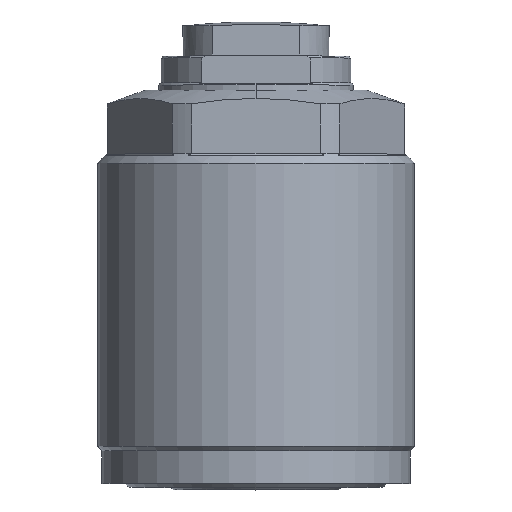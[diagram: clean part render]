
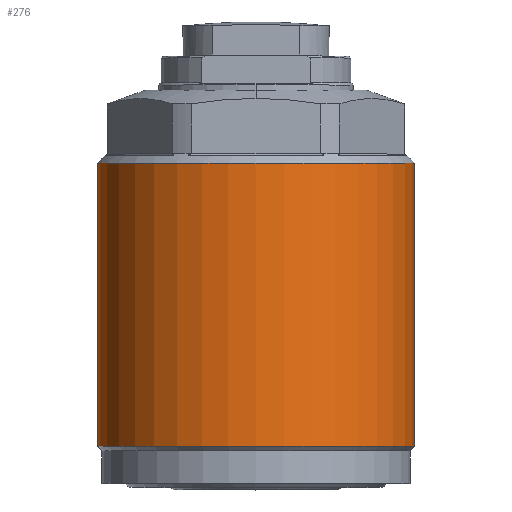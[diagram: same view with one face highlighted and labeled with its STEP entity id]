
A CAD part, top view. The second image highlights one B-rep face of the part: STEP entity #276.
In plain terms, the highlighted cylindrical face has radius 32.5 mm (diameter 65 mm), a partial arc.
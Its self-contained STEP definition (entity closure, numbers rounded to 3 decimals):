
#205=CYLINDRICAL_SURFACE('',#1664,32.5);
#276=ADVANCED_FACE('',(#381),#205,.T.);
#381=FACE_OUTER_BOUND('',#473,.T.);
#473=EDGE_LOOP('',(#892,#893,#894,#895));
#562=LINE('',#2502,#637);
#563=LINE('',#2506,#638);
#637=VECTOR('',#2022,1.);
#638=VECTOR('',#2025,1.);
#892=ORIENTED_EDGE('',*,*,#1355,.T.);
#893=ORIENTED_EDGE('',*,*,#1357,.T.);
#894=ORIENTED_EDGE('',*,*,#1358,.T.);
#895=ORIENTED_EDGE('',*,*,#1359,.F.);
#1181=VERTEX_POINT('',#2497);
#1182=VERTEX_POINT('',#2499);
#1183=VERTEX_POINT('',#2503);
#1184=VERTEX_POINT('',#2505);
#1355=EDGE_CURVE('',#1182,#1181,#1512,.T.);
#1357=EDGE_CURVE('',#1181,#1183,#562,.T.);
#1358=EDGE_CURVE('',#1183,#1184,#1513,.T.);
#1359=EDGE_CURVE('',#1182,#1184,#563,.T.);
#1512=CIRCLE('',#1661,32.5);
#1513=CIRCLE('',#1663,32.5);
#1661=AXIS2_PLACEMENT_3D('',#2498,#2017,#2018);
#1663=AXIS2_PLACEMENT_3D('',#2504,#2023,#2024);
#1664=AXIS2_PLACEMENT_3D('',#2507,#2026,#2027);
#2017=DIRECTION('',(-1.,0.,0.));
#2018=DIRECTION('',(0.,0.,1.));
#2022=DIRECTION('',(-1.,0.,0.));
#2023=DIRECTION('',(1.,0.,0.));
#2024=DIRECTION('',(0.,0.,-1.));
#2025=DIRECTION('',(-1.,0.,0.));
#2026=DIRECTION('',(-1.,0.,0.));
#2027=DIRECTION('',(0.,0.,-1.));
#2497=CARTESIAN_POINT('',(73.1,0.,-32.5));
#2498=CARTESIAN_POINT('',(73.1,0.,0.));
#2499=CARTESIAN_POINT('',(73.1,0.,32.5));
#2502=CARTESIAN_POINT('',(80.7,0.,-32.5));
#2503=CARTESIAN_POINT('',(15.,0.,-32.5));
#2504=CARTESIAN_POINT('',(15.,0.,0.));
#2505=CARTESIAN_POINT('',(15.,0.,32.5));
#2506=CARTESIAN_POINT('',(80.7,0.,32.5));
#2507=CARTESIAN_POINT('',(80.7,0.,0.));
